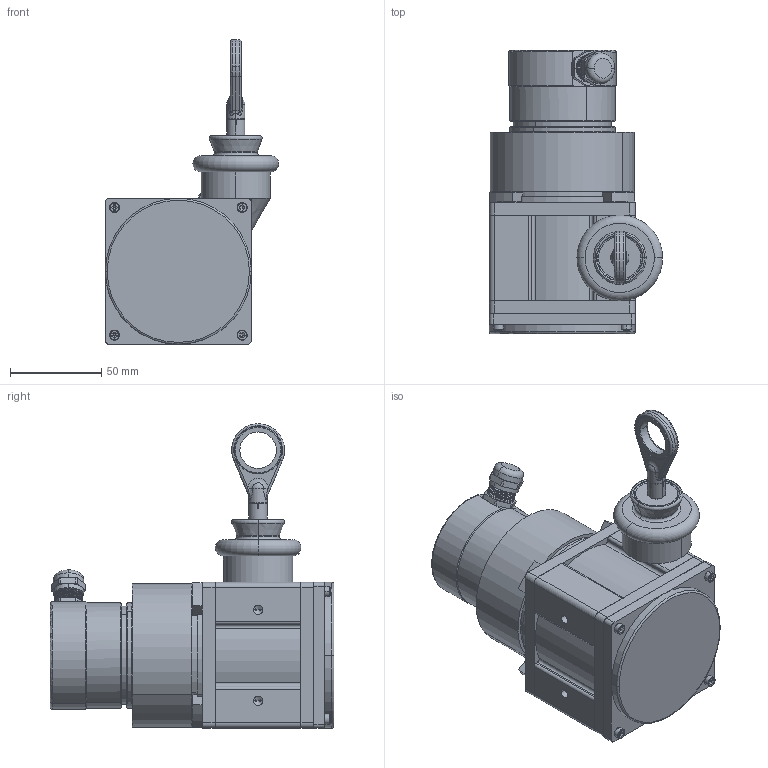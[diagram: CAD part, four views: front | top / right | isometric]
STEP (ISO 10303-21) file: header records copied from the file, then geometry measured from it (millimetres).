
FILE_DESCRIPTION (( 'STEP AP214' ), '1' );
FILE_NAME ('2米-装配夹紧发兰5810编码器.step', '2025-04-20T14:44:10', ( '' ), ( '' ), 'SwSTEP 2.0', 'SolidWorks 2024', '' );
FILE_SCHEMA (( 'AUTOMOTIVE_DESIGN' ));
Length unit declared in the file: millimetre
Products named in the file (1): 2米-装配夹紧发兰5810编码器
Bounding box: 95 x 155.5 x 167 mm (x, y, z)
Surface area: 145767.1 mm2 (no closed solid volume)
Topology: 0 solids, 187 shells, 1038 faces, 3584 edges, 2720 vertices
Faces by surface type: plane 456, cylinder 385, cone 84, bspline 70, torus 32, sphere 11
Entity records: 52255 total; most frequent: CARTESIAN_POINT 22353, DIRECTION 5843, ORIENTED_EDGE 5669, EDGE_CURVE 3561, VERTEX_POINT 2715, AXIS2_PLACEMENT_3D 2043, LINE 1757, VECTOR 1757
